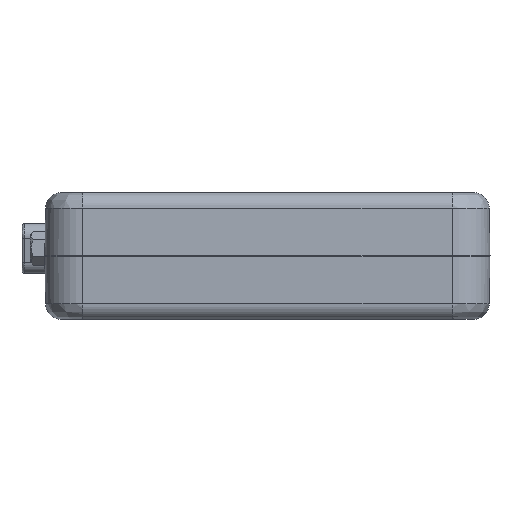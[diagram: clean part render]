
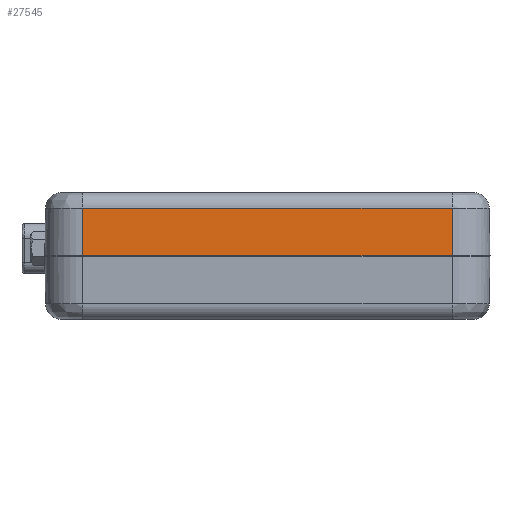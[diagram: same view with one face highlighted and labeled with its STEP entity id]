
A CAD part, front view. The second image highlights one B-rep face of the part: STEP entity #27545.
In plain terms, the highlighted free-form (B-spline) face has degree [1, 1] with [2, 2] control points.
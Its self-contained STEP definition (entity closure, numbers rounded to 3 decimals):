
#27545 = ADVANCED_FACE('',(#27546),#27580,.T.);
#27546 = FACE_BOUND('',#27547,.T.);
#27547 = EDGE_LOOP('',(#27548,#27558,#27566,#27574));
#27548 = ORIENTED_EDGE('',*,*,#27549,.T.);
#27549 = EDGE_CURVE('',#27550,#27552,#27554,.T.);
#27550 = VERTEX_POINT('',#27551);
#27551 = CARTESIAN_POINT('',(59.42,-9.979,
    5.1));
#27552 = VERTEX_POINT('',#27553);
#27553 = CARTESIAN_POINT('',(59.42,-9.847,
    12.644));
#27554 = LINE('',#27555,#27556);
#27555 = CARTESIAN_POINT('',(59.42,-9.979,
    5.1));
#27556 = VECTOR('',#27557,1.);
#27557 = DIRECTION('',(0.,0.017,1.));
#27558 = ORIENTED_EDGE('',*,*,#27559,.T.);
#27559 = EDGE_CURVE('',#27552,#27560,#27562,.T.);
#27560 = VERTEX_POINT('',#27561);
#27561 = CARTESIAN_POINT('',(0.92,-9.847,
    12.644));
#27562 = LINE('',#27563,#27564);
#27563 = CARTESIAN_POINT('',(59.42,-9.847,
    12.644));
#27564 = VECTOR('',#27565,1.);
#27565 = DIRECTION('',(-1.,0.,0.));
#27566 = ORIENTED_EDGE('',*,*,#27567,.T.);
#27567 = EDGE_CURVE('',#27560,#27568,#27570,.T.);
#27568 = VERTEX_POINT('',#27569);
#27569 = CARTESIAN_POINT('',(0.92,-9.979,
    5.1));
#27570 = LINE('',#27571,#27572);
#27571 = CARTESIAN_POINT('',(0.92,-9.847,
    12.644));
#27572 = VECTOR('',#27573,1.);
#27573 = DIRECTION('',(0.,-0.017,-1.));
#27574 = ORIENTED_EDGE('',*,*,#27575,.T.);
#27575 = EDGE_CURVE('',#27568,#27550,#27576,.T.);
#27576 = LINE('',#27577,#27578);
#27577 = CARTESIAN_POINT('',(0.92,-9.979,
    5.1));
#27578 = VECTOR('',#27579,1.);
#27579 = DIRECTION('',(1.,0.,0.));
#27580 = B_SPLINE_SURFACE_WITH_KNOTS('',1,1,(
    (#27581,#27582)
    ,(#27583,#27584
  )),.UNSPECIFIED.,.F.,.F.,.F.,(2,2),(2,2),(0.,1.),(0.,1.),
  .PIECEWISE_BEZIER_KNOTS.);
#27581 = CARTESIAN_POINT('',(0.92,-9.847,
    12.644));
#27582 = CARTESIAN_POINT('',(59.42,-9.847,
    12.644));
#27583 = CARTESIAN_POINT('',(0.92,-9.979,
    5.1));
#27584 = CARTESIAN_POINT('',(59.42,-9.979,
    5.1));
